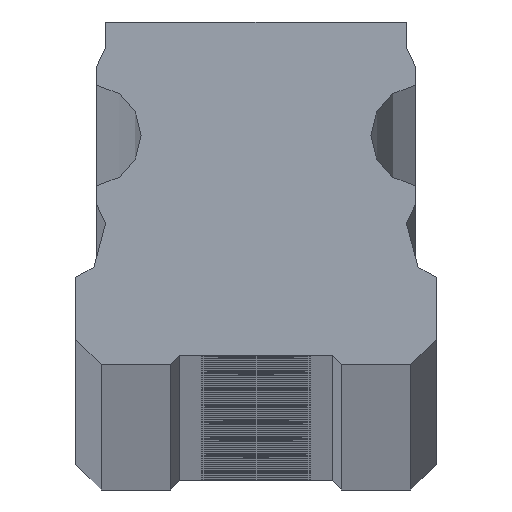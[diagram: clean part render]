
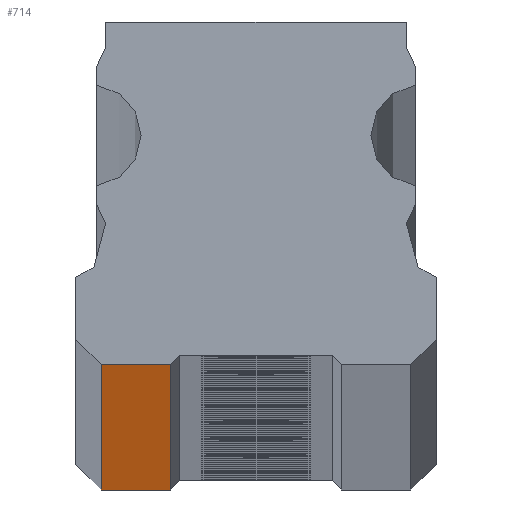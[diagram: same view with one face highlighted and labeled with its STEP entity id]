
A CAD part, top view. The second image highlights one B-rep face of the part: STEP entity #714.
In plain terms, the highlighted planar face has unit normal (0, -1, 0).
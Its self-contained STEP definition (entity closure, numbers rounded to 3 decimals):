
#1 = CARTESIAN_POINT ( 'NONE',  ( -4.75, 0., 2000. ) ) ;
#6 = VERTEX_POINT ( 'NONE', #2250 ) ;
#7 = VERTEX_POINT ( 'NONE', #1 ) ;
#21 = VERTEX_POINT ( 'NONE', #2262 ) ;
#43 = VERTEX_POINT ( 'NONE', #2284 ) ;
#284 = EDGE_CURVE ( 'NONE', #21, #43, #2028, .T. ) ;
#714 = ADVANCED_FACE ( 'NONE', ( #5356 ), #4891, .F. ) ;
#933 = EDGE_LOOP ( 'NONE', ( #1754, #1755, #1756, #1757 ) ) ;
#1754 = ORIENTED_EDGE ( 'NONE', *, *, #3064, .T. ) ;
#1755 = ORIENTED_EDGE ( 'NONE', *, *, #3166, .F. ) ;
#1756 = ORIENTED_EDGE ( 'NONE', *, *, #284, .F. ) ;
#1757 = ORIENTED_EDGE ( 'NONE', *, *, #3142, .F. ) ;
#2028 = LINE ( 'NONE', #2531, #2040 ) ;
#2040 = VECTOR ( 'NONE', #2534, 1000. ) ;
#2250 = CARTESIAN_POINT ( 'NONE',  ( -4.75, 0., -2000. ) ) ;
#2262 = CARTESIAN_POINT ( 'NONE',  ( -8.6, 0., -2000. ) ) ;
#2284 = CARTESIAN_POINT ( 'NONE',  ( -8.6, 0., 2000. ) ) ;
#2531 = CARTESIAN_POINT ( 'NONE',  ( -8.6, 0., -2000. ) ) ;
#2534 = DIRECTION ( 'NONE',  ( 0., 0., 1. ) ) ;
#3064 = EDGE_CURVE ( 'NONE', #6, #7, #6799, .T. ) ;
#3142 = EDGE_CURVE ( 'NONE', #6, #21, #6892, .T. ) ;
#3166 = EDGE_CURVE ( 'NONE', #43, #7, #6938, .T. ) ;
#4891 = PLANE ( 'NONE',  #5903 ) ;
#4894 = CARTESIAN_POINT ( 'NONE',  ( -10., 0., 2027.586 ) ) ;
#4900 = DIRECTION ( 'NONE',  ( 0., 1., 0. ) ) ;
#4901 = DIRECTION ( 'NONE',  ( 0., 0., 1. ) ) ;
#5356 = FACE_OUTER_BOUND ( 'NONE', #933, .T. ) ;
#5903 = AXIS2_PLACEMENT_3D ( 'NONE', #4894, #4900, #4901 ) ;
#6746 = CARTESIAN_POINT ( 'NONE',  ( -4.75, 0., -2000. ) ) ;
#6747 = DIRECTION ( 'NONE',  ( 0., 0., 1. ) ) ;
#6799 = LINE ( 'NONE', #6746, #6800 ) ;
#6800 = VECTOR ( 'NONE', #6747, 1000. ) ;
#6892 = LINE ( 'NONE', #7232, #6893 ) ;
#6893 = VECTOR ( 'NONE', #7233, 1000. ) ;
#6938 = LINE ( 'NONE', #7282, #6939 ) ;
#6939 = VECTOR ( 'NONE', #7283, 1000. ) ;
#7232 = CARTESIAN_POINT ( 'NONE',  ( -10., 0., -2000. ) ) ;
#7233 = DIRECTION ( 'NONE',  ( -1., 0., 0. ) ) ;
#7282 = CARTESIAN_POINT ( 'NONE',  ( -10., 0., 2000. ) ) ;
#7283 = DIRECTION ( 'NONE',  ( 1., 0., 0. ) ) ;
